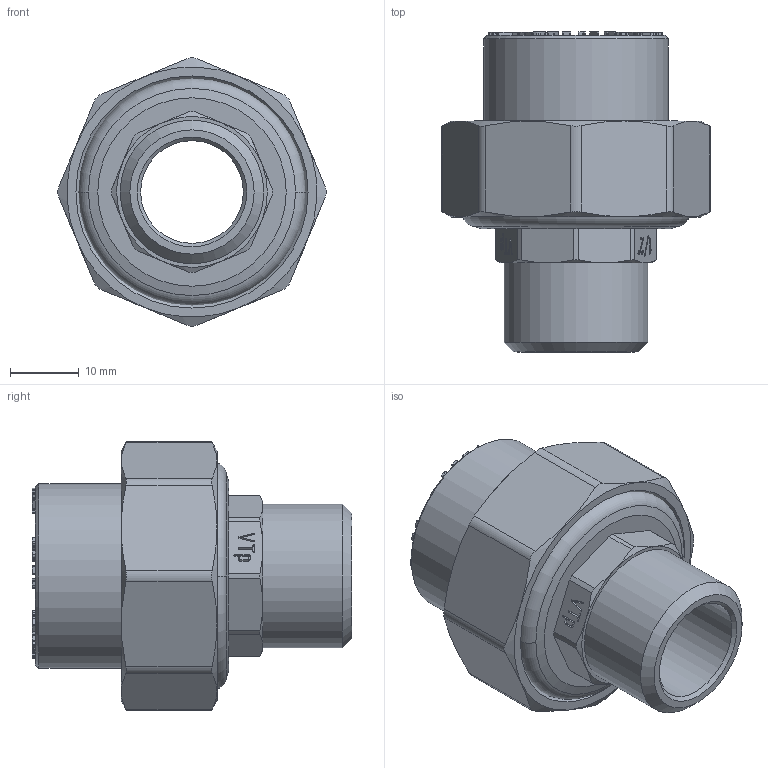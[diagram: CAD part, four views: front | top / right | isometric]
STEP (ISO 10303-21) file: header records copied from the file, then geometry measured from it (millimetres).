
FILE_DESCRIPTION(('STEP AP203'), '1');
FILE_NAME('VTp.761.0.02004', '', ('UNSPECIFIED'), ('UNSPECIFIED'), 'C3D Converter', 'C3D Toolkit', '');
FILE_SCHEMA(('CONFIG_CONTROL_DESIGN'));
Length unit declared in the file: millimetre
Products named in the file (1): ВР.302634.097.000 СБ
Bounding box: 39.18 x 46.7 x 39.18 mm (x, y, z)
Volume: 19678.6 mm3; surface area: 13300.6 mm2
Topology: 4 solids, 4 shells, 876 faces, 2418 edges, 1602 vertices
Faces by surface type: extrusion 482, plane 335, cylinder 29, cone 25, torus 5
Full cylindrical faces by diameter (mm): 15 x2, 18.8 x1, 20.955 x1, 22.6 x2, 27 x1, 28 x1, 28.2 x2, 30 x1, 30.292 x1, 33.2 x1
Entity records: 29472 total; most frequent: CARTESIAN_POINT 9273, ORIENTED_EDGE 4746, DIRECTION 2684, EDGE_CURVE 2373, VECTOR 1780, VERTEX_POINT 1593, B_SPLINE_CURVE_WITH_KNOTS 1491, LINE 1298
